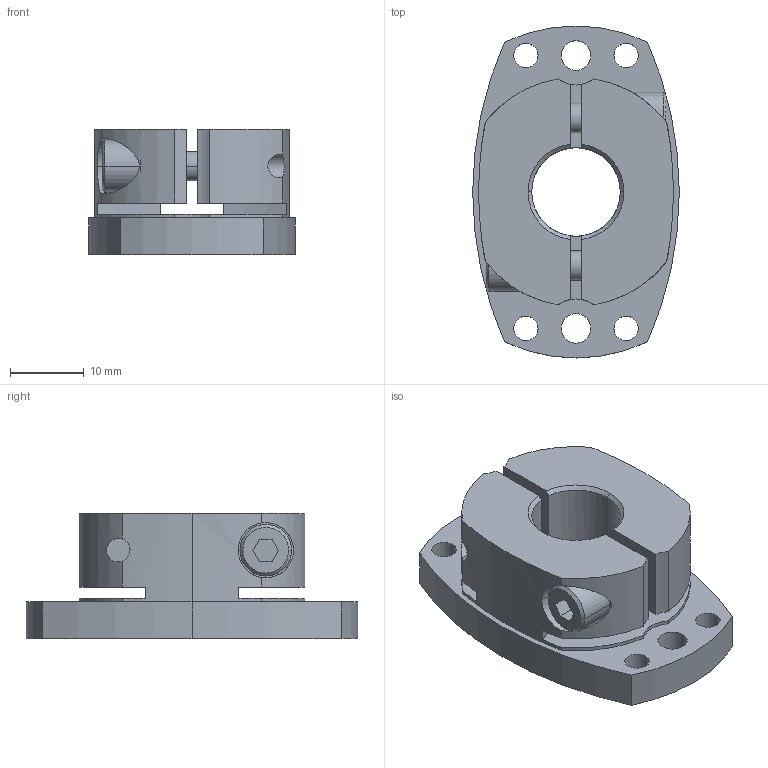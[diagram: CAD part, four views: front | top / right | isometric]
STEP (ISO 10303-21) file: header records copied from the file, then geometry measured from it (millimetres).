
FILE_DESCRIPTION((''),'2;1');
FILE_NAME('SHDB-45B-12.stp','2026-01-27T12:39:24',(''),(''),'AutoCAD STEP 2000i','AutoCAD 2000i',', , ');
FILE_SCHEMA(('CONFIG_CONTROL_DESIGN'));
Length unit declared in the file: millimetre
Products named in the file (2): SHDB-45B-10; 忣兜1
Assembly tree (1 placements, depth 2):
  SHDB-45B-10
    忣兜1
Bounding box: 28 x 45 x 17 mm (x, y, z)
Volume: 10498 mm3; surface area: 6006.7 mm2
Topology: 1 solids, 1 shells, 102 faces, 280 edges, 184 vertices
Faces by surface type: cylinder 58, plane 34, cone 10
Entity records: 3661 total; most frequent: CARTESIAN_POINT 834, DIRECTION 602, ORIENTED_EDGE 560, EDGE_CURVE 280, AXIS2_PLACEMENT_3D 238, VERTEX_POINT 184, CIRCLE 134, VECTOR 126
